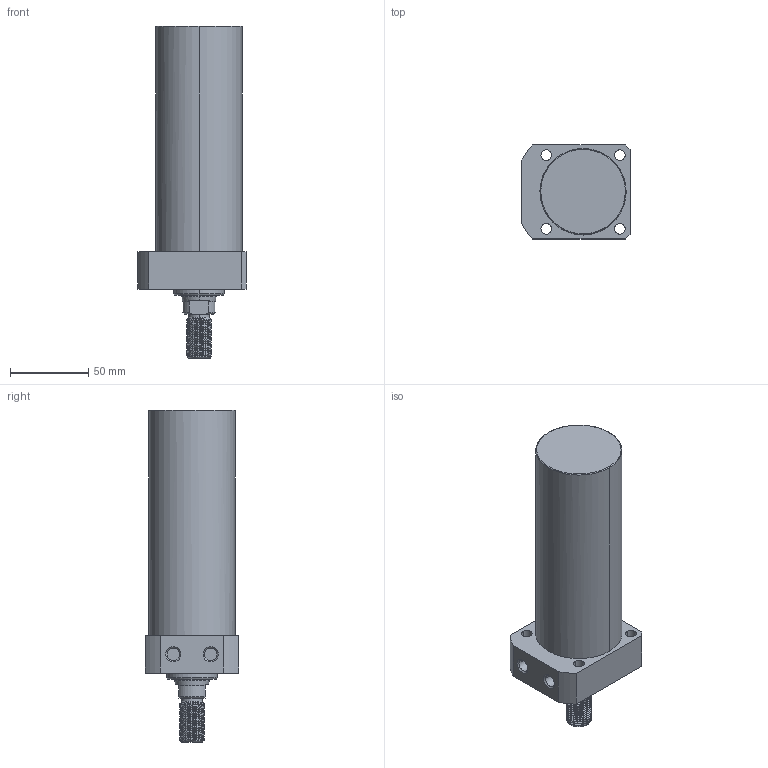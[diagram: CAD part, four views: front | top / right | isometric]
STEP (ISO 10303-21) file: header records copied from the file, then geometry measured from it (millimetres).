
FILE_DESCRIPTION((' '),'2;1');
FILE_NAME( 'TLLR-055CT-115.STEP.stp', '2025-10-24T16:34:48', (' '), ('--- Datakit www.datakit.com---'), ' Datakit CrossCadWare V2024.1 Dec 21 2023', 'Mastercam 2025', ' ');
FILE_SCHEMA(('AUTOMOTIVE_DESIGN { 1 0 10303 214 1 1 1 1 }'));
Length unit declared in the file: millimetre
Products named in the file (1): TLLR-055CT-115
Bounding box: 69 x 60 x 212 mm (x, y, z)
Volume: 446846.6 mm3; surface area: 44690.2 mm2
Topology: 1 solids, 1 shells, 101 faces, 359 edges, 268 vertices
Faces by surface type: cylinder 61, plane 20, cone 16, bspline 2, torus 2
Entity records: 11254 total; most frequent: CARTESIAN_POINT 8159, ORIENTED_EDGE 718, DIRECTION 516, EDGE_CURVE 359, VERTEX_POINT 268, AXIS2_PLACEMENT_3D 209, B_SPLINE_CURVE_WITH_KNOTS 152, EDGE_LOOP 117
